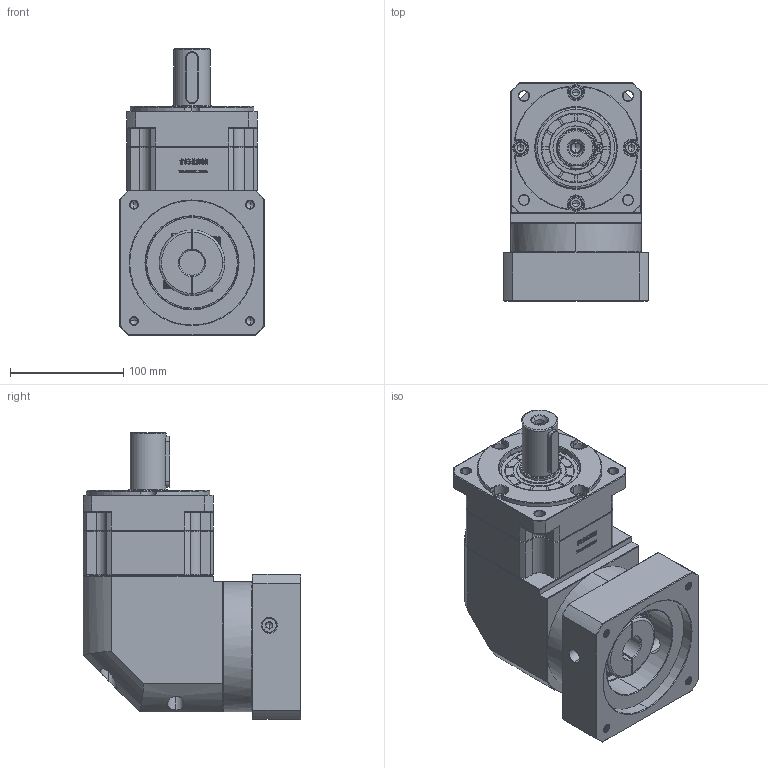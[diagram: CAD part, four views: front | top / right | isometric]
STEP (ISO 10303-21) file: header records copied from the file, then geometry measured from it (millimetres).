
FILE_DESCRIPTION (( 'STEP AP214' ), '1' );
FILE_NAME ('ZBR115A-D32-L1-22-110-145-M8.step', '2023-03-03T05:00:20', ( '' ), ( 'Microsoft' ), 'SwSTEP 2.0', 'SolidWorks 2016', '' );
FILE_SCHEMA (( 'AUTOMOTIVE_DESIGN' ));
Length unit declared in the file: millimetre
Products named in the file (1): ZBR115A-D32-L1-22-110-145-M8
Bounding box: 128 x 192.4 x 253 mm (x, y, z)
Volume: 3056579.1 mm3; surface area: 255285.9 mm2
Topology: 6 solids, 6 shells, 2983 faces, 7915 edges, 5078 vertices
Faces by surface type: plane 1559, bspline 607, cylinder 439, cone 370, torus 8
Entity records: 162115 total; most frequent: CARTESIAN_POINT 60115, ORIENTED_EDGE 15770, DIRECTION 11941, EDGE_CURVE 7885, VECTOR 5307, LINE 5307, VERTEX_POINT 5078, AXIS2_PLACEMENT_3D 3317
